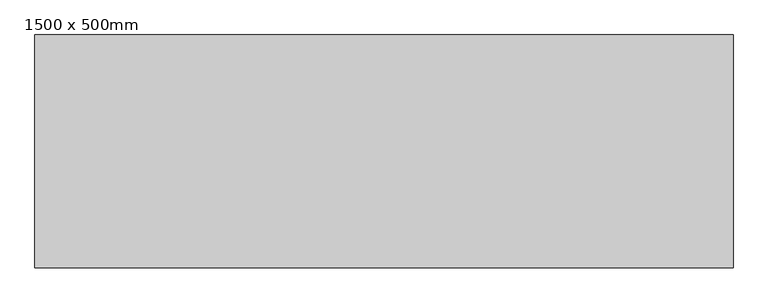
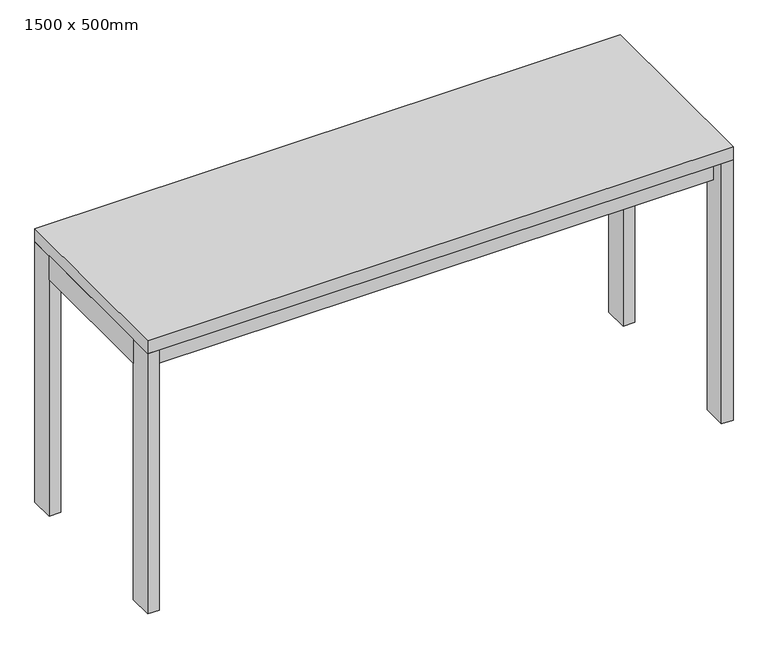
"""IFC4 building model written with IfcOpenShell, lengths in millimetres: furniture geometry, Table - Allround : 1500 x 500mm."""

from ifc_helpers import new_model, si_unit, frame, origin, origin_with_axes, place, context, project, spatial, polyline, outline, extrude, source, transform, mapped, element, save


def furniture_1500_x_500mm_231fc5f9(model_context):
    return source(origin(), model_context, "Body", "SweptSolid", [
        extrude(outline(polyline([(720.0, 215.0), (720.0, 189.6), (-720.0, 189.6), (-720.0, 215.0), (720.0, 215.0)])), frame((0.0, 0.0, 640.0), z_axis=(0.0, 0.0, 1.0), x_axis=(1.0, 0.0, 0.0)), (0.0, 0.0, 1.0), 65.0),
        extrude(outline(polyline([(720.0, -215.0), (-720.0, -215.0), (-720.0, -189.6), (720.0, -189.6), (720.0, -215.0)])), frame((0.0, 0.0, 640.0), z_axis=(0.0, 0.0, 1.0), x_axis=(1.0, 0.0, 0.0)), (0.0, 0.0, 1.0), 65.0),
        extrude(outline(polyline([(-720.0, -186.5), (-750.0, -186.5), (-750.0, 186.5), (-720.0, 186.5), (-720.0, -186.5)])), frame((0.0, 0.0, 640.0), z_axis=(0.0, 0.0, 1.0), x_axis=(1.0, 0.0, 0.0)), (0.0, 0.0, 1.0), 65.0),
        extrude(outline(polyline([(720.0, -186.5), (720.0, 186.5), (750.0, 186.5), (750.0, -186.5), (720.0, -186.5)])), frame((0.0, 0.0, 640.0), z_axis=(0.0, 0.0, 1.0), x_axis=(1.0, 0.0, 0.0)), (0.0, 0.0, 1.0), 65.0),
        extrude(outline(polyline([(750.0, 250.0), (750.0, -250.0), (-750.0, -250.0), (-750.0, 250.0), (750.0, 250.0)])), frame((0.0, 0.0, 705.0), z_axis=(0.0, 0.0, 1.0), x_axis=(1.0, 0.0, 0.0)), (0.0, 0.0, 1.0), 35.0),
        extrude(outline(polyline([(-720.0, 250.0), (-720.0, 186.5), (-750.0, 186.5), (-750.0, 250.0), (-720.0, 250.0)])), origin_with_axes(), (0.0, 0.0, 1.0), 705.0),
        extrude(outline(polyline([(720.0, 250.0), (750.0, 250.0), (750.0, 186.5), (720.0, 186.5), (720.0, 250.0)])), origin_with_axes(), (0.0, 0.0, 1.0), 705.0),
        extrude(outline(polyline([(-720.0, -250.0), (-750.0, -250.0), (-750.0, -186.5), (-720.0, -186.5), (-720.0, -250.0)])), origin_with_axes(), (0.0, 0.0, 1.0), 705.0),
        extrude(outline(polyline([(720.0, -250.0), (720.0, -186.5), (750.0, -186.5), (750.0, -250.0), (720.0, -250.0)])), origin_with_axes(), (0.0, 0.0, 1.0), 705.0),
    ])


if __name__ == "__main__":
    model = new_model("IFC4")
    model_context = context("Model", 3, world=origin())
    ifc_project = project(units=[si_unit("LENGTHUNIT", "METRE", prefix="MILLI")], contexts=[model_context])
    site = spatial("IfcSite", under=ifc_project)
    building = spatial("IfcBuilding", under=site)
    placement = place(None, origin())
    furniture_1500_x_500mm_shape = furniture_1500_x_500mm_231fc5f9(model_context)
    element("IfcFurniture", 1, ObjectType="Table - Allround : 1500 x 500mm", at=placement, inside=building, context=model_context, shape_type="MappedRepresentation", body=[
        mapped(furniture_1500_x_500mm_shape, transform((0.0, 0.0, 0.0), x_axis=(1.0, 0.0, 0.0), y_axis=(0.0, 1.0, 0.0), z_axis=(0.0, 0.0, 1.0))),
    ])
    save(model, "model.ifc")
